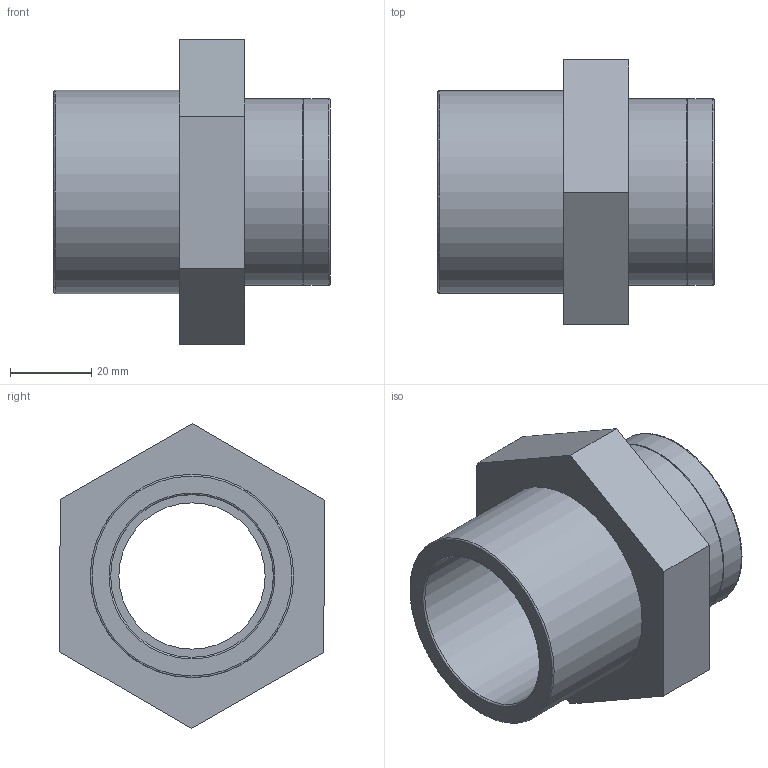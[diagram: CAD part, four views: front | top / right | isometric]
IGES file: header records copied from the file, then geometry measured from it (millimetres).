
Global section: file name: 057202050013.ipt; native system: Autodesk Inventor 2015; preprocessor: unknown; author: KIM; date: 20171207.165821; units: millimetre
Bounding box: 68 x 65.1 x 75.06 mm (x, y, z)
Volume: 71320.2 mm3; surface area: 25124 mm2
Topology: 1 solids, 1 shells, 24 faces, 61 edges, 43 vertices
Faces by surface type: plane 12, revolution 7, cylinder 3, cone 2
Full cylindrical faces by diameter (mm): 46 x2, 50 x1
